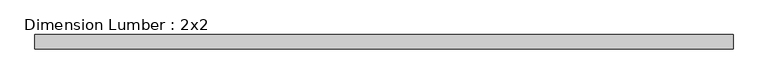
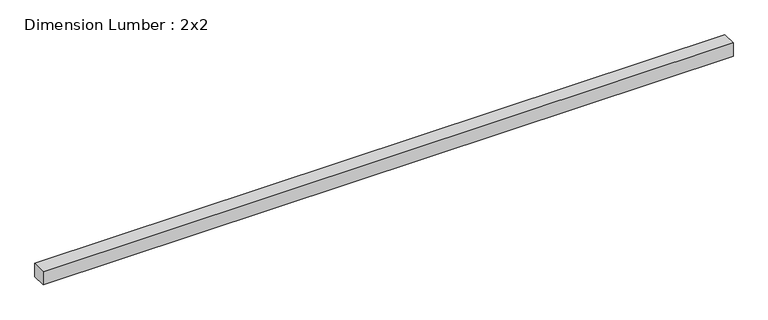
"""IFC4 building model written with IfcOpenShell, lengths in millimetres: beam geometry, Dimension Lumber : 2x2."""

from ifc_helpers import new_model, si_unit, frame, origin, place, context, project, spatial, polyline, outline, extrude, source, transform, mapped, element, save


def dimension_lumber_2x2_c3e2c1cf(model_context):
    return source(origin(), model_context, "Body", "SweptSolid", [
        extrude(outline(polyline([(933.45, 19.05), (933.45, -19.05), (-933.45, -19.05), (-933.45, 19.05), (933.45, 19.05)])), frame((0.0, 0.0, -19.05), z_axis=(0.0, 0.0, 1.0), x_axis=(1.0, 0.0, 0.0)), (0.0, 0.0, 1.0), 38.1),
    ])


if __name__ == "__main__":
    model = new_model("IFC4")
    model_context = context("Model", 3, world=origin())
    ifc_project = project(units=[si_unit("LENGTHUNIT", "METRE", prefix="MILLI")], contexts=[model_context])
    site = spatial("IfcSite", under=ifc_project)
    building = spatial("IfcBuilding", under=site)
    placement = place(None, origin())
    dimension_lumber_2x2_shape = dimension_lumber_2x2_c3e2c1cf(model_context)
    element("IfcBeam", 1, ObjectType="Dimension Lumber : 2x2", at=placement, inside=building, context=model_context, shape_type="MappedRepresentation", body=[
        mapped(dimension_lumber_2x2_shape, transform((0.0, 0.0, 0.0), x_axis=(1.0, 0.0, 0.0), y_axis=(0.0, 1.0, 0.0), z_axis=(0.0, 0.0, 1.0))),
    ])
    save(model, "model.ifc")
